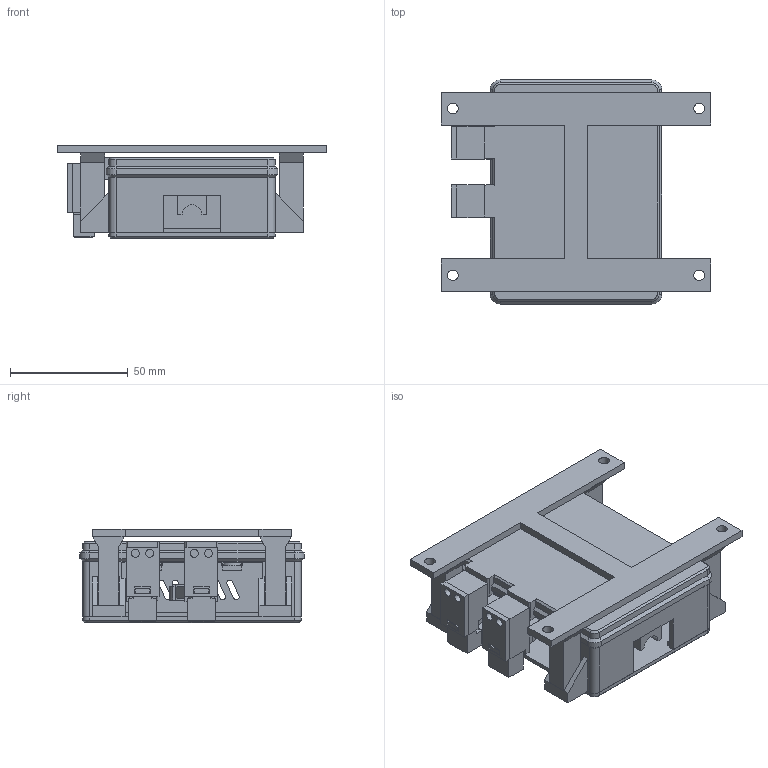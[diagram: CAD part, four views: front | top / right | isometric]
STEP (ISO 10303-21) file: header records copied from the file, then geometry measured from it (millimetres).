
FILE_DESCRIPTION(('Open CASCADE Model'),'2;1');
FILE_NAME('Open CASCADE Shape Model','2026-10-19T19:24:52',('Author'),( 'Open CASCADE'),'Open CASCADE STEP processor 7.9','build123d', 'Unknown');
FILE_SCHEMA(('AUTOMOTIVE_DESIGN { 1 0 10303 214 1 1 1 1 }'));
Length unit declared in the file: millimetre
Products named in the file (16): COMPOUND
Assembly tree (15 placements, depth 2):
  COMPOUND
    COMPOUND
    COMPOUND
    COMPOUND
    COMPOUND
    COMPOUND
    COMPOUND
    COMPOUND
    COMPOUND
    COMPOUND
    COMPOUND
    COMPOUND
    COMPOUND
    COMPOUND
    COMPOUND
    COMPOUND
Bounding box: 114.5 x 95.2 x 39.6 mm (x, y, z)
Volume: 94274.4 mm3; surface area: 74243.2 mm2
Topology: 15 solids, 15 shells, 661 faces, 1698 edges, 1107 vertices
Faces by surface type: plane 522, cylinder 123, cone 16
Full cylindrical faces by diameter (mm): 3.4 x22, 4 x18, 4.5 x4
Entity records: 41672 total; most frequent: CARTESIAN_POINT 8452, DIRECTION 5650, LINE 3636, VECTOR 3636, ORIENTED_EDGE 3396, PCURVE 3396, DEFINITIONAL_REPRESENTATION 3396, EDGE_CURVE 1698
